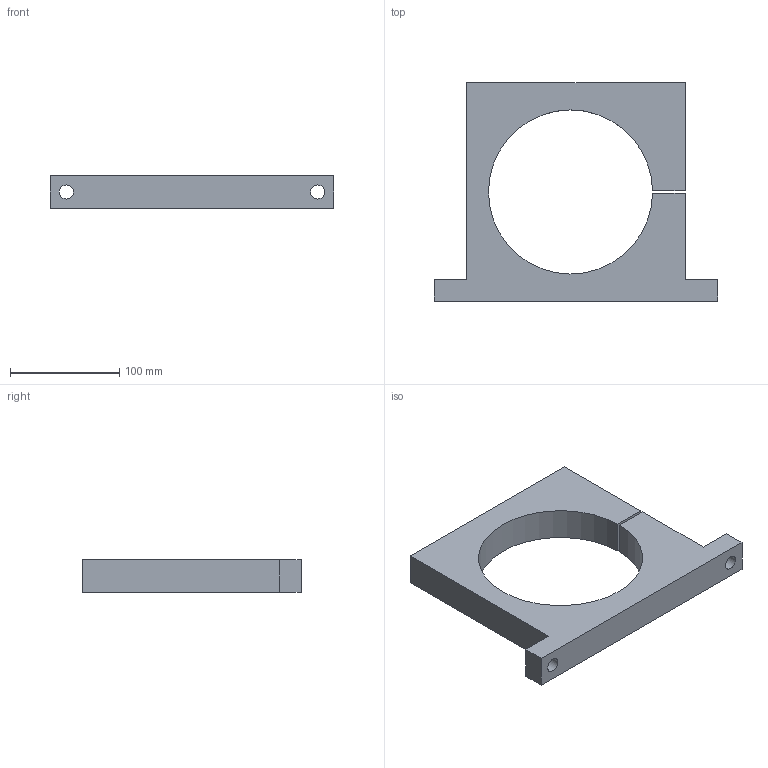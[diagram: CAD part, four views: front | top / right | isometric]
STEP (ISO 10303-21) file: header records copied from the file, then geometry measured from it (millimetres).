
FILE_DESCRIPTION(/* description */ (''),/* implementation_level */ '2;1');
FILE_NAME(/* name */ 'C:\Users\Jefferson\Desktop\Biblioteca Pro Nitro 2024\Flanges\PNB-57-XXX\PNB-57-150.stp',/* time_stamp */ '2024-01-29T10:32:15-03:00',/* author */ ('Jefferson'),/* organization */ (''),/* preprocessor_version */ 'ST-DEVELOPER v18.1',/* originating_system */ 'Autodesk Inventor 2021',/* authorisation */ '');
FILE_SCHEMA (('AUTOMOTIVE_DESIGN { 1 0 10303 214 3 1 1 }'));
Length unit declared in the file: millimetre
Products named in the file (1): PNB-57-150
Bounding box: 260 x 200 x 30 mm (x, y, z)
Volume: 678448.5 mm3; surface area: 96232.4 mm2
Topology: 1 solids, 1 shells, 163 faces, 444 edges, 298 vertices
Faces by surface type: plane 95, bspline 61, cylinder 6, cone 1
Full cylindrical faces by diameter (mm): 10.106 x1, 13 x2, 13.5 x1, 20 x1
Entity records: 5479 total; most frequent: CARTESIAN_POINT 1698, ORIENTED_EDGE 886, DIRECTION 546, EDGE_CURVE 443, LINE 302, VECTOR 302, VERTEX_POINT 298, EDGE_LOOP 185
